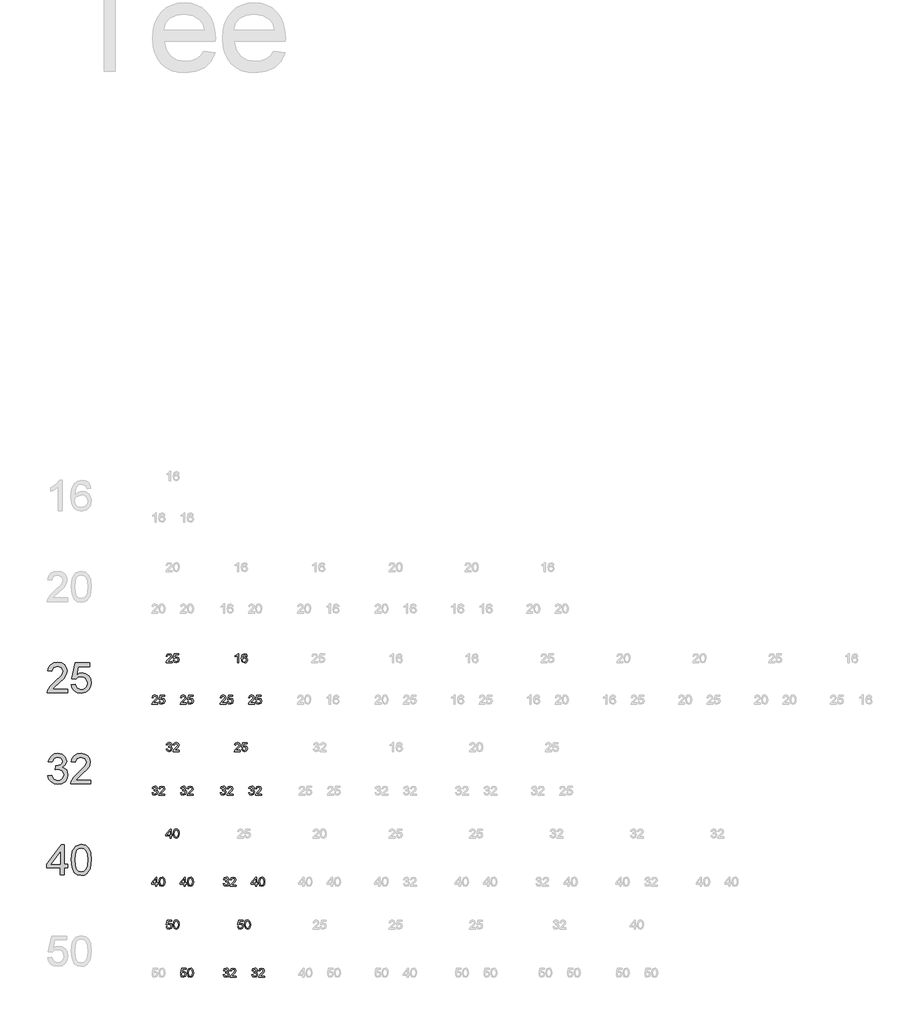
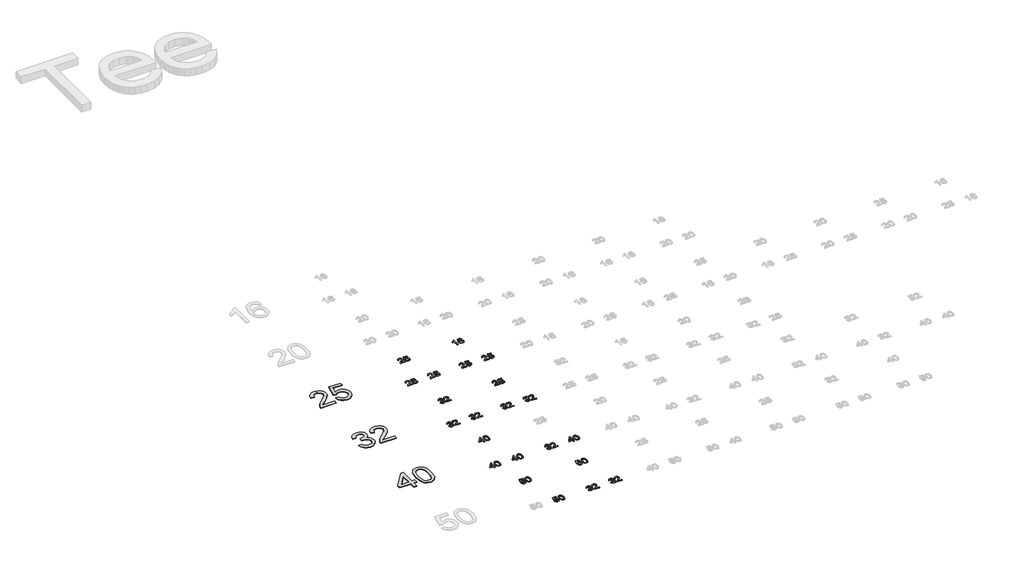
# One storey, part 16 of 26: 25 proxies.
"""IFC4 building model written with IfcOpenShell, lengths in millimetres."""

from ifc_helpers import new_model, si_unit, origin, origin_with_axes, place, context, project, spatial, polyline, outline, extrude, element, save

model = new_model("IFC4")

# Units and contexts
model_context = context("Model", 3, world=origin())
ifc_project = project(units=[si_unit("LENGTHUNIT", "METRE", prefix="MILLI")], contexts=[model_context])

# Site, building, storey
site = spatial("IfcSite", under=ifc_project)
building = spatial("IfcBuilding", under=site)
storey = spatial("IfcBuildingStorey", under=building, Name="Superpipe UFH", Elevation=0.0)

# Proxies
placement = place(None, origin())
element("IfcBuildingElementProxy", 1, Name="100mm Arial", ObjectType="100mm Arial", at=placement, inside=storey, context=model_context, shape_type="SweptSolid", body=[
    extrude(outline(polyline([(25235.3381363, 23738.2895031), (25235.3381363, 23725.7324643), (25169.4136828, 23725.7324643), (25170.7625834, 23734.3899539), (25178.3900035, 23747.7195449), (25194.1108274, 23762.2754092), (25215.7913396, 23783.195632), (25221.2114677, 23797.4204025), (25216.097908, 23808.9351089), (25202.7437915, 23813.6317357), (25188.8255894, 23809.0454735), (25183.5403514, 23796.3658074), (25170.9833126, 23797.9354372), (25174.0275361, 23810.0816745), (25180.6095582, 23818.9537619), (25190.3860222, 23824.3800213), (25203.0135717, 23826.1887745), (25215.7330917, 23824.1776862), (25225.4911616, 23818.1444215), (25231.6991702, 23809.1313126), (25233.7685065, 23798.1806919), (25231.536689, 23786.273578), (25224.1177355, 23773.9617939), (25206.1283059, 23756.7571793), (25191.6828062, 23744.6783871), (25186.0174235, 23738.2895031), (25235.3381363, 23738.2895031)])), origin_with_axes(), (0.0, 0.0, 1.0), 2.0),
    extrude(outline(polyline([(25247.8951751, 23752.4161717), (25260.4522139, 23753.9858016), (25266.7797842, 23741.0486181), (25279.9009087, 23736.7198733), (25288.9017548, 23738.2251237), (25295.6462581, 23742.7408752), (25299.8585069, 23749.7459616), (25301.2625899, 23758.7192166), (25296.0018773, 23773.6307001), (25289.3953298, 23777.7325843), (25280.0971124, 23779.0998791), (25269.0729153, 23776.9171126), (25262.0218437, 23771.2517299), (25249.4648049, 23772.8213597), (25260.4522139, 23824.6191446), (25309.1107391, 23824.6191446), (25309.1107391, 23812.0621059), (25270.6057569, 23812.0621059), (25265.2346798, 23784.3973798), (25274.2048691, 23789.8420334), (25283.6042541, 23791.6569179), (25295.336624, 23789.4067063), (25305.0762999, 23782.6560717), (25311.6337964, 23772.3676386), (25313.8196286, 23759.5040315), (25311.8514599, 23746.9469927), (25305.9469539, 23736.2048385), (25294.6407139, 23727.1733355), (25279.8518577, 23724.1628345), (25267.5186138, 23726.0972806), (25257.6930989, 23731.9006191), (25250.9577927, 23740.8983996), (25247.8951751, 23752.4161717)])), origin_with_axes(), (0.0, 0.0, 1.0), 2.0),
])
element("IfcBuildingElementProxy", 2, Name="100mm Arial", ObjectType="100mm Arial", at=placement, inside=storey, context=model_context, shape_type="SweptSolid", body=[
    extrude(outline(polyline([(25170.9833126, 23452.4161717), (25183.5403514, 23453.9858016), (25190.4687956, 23440.7665752), (25203.4305046, 23436.7198733), (25212.0389433, 23438.1116935), (25218.6853447, 23442.2871541), (25224.3507274, 23456.0704662), (25218.7343956, 23469.0567006), (25204.4605742, 23474.1947858), (25195.6559318, 23472.8213597), (25197.0538834, 23485.3783985), (25199.0649716, 23485.2312457), (25213.3142675, 23488.8364892), (25218.0599453, 23493.4104887), (25219.6418379, 23499.922), (25215.0555756, 23509.7444493), (25203.2343009, 23513.6317357), (25191.2658733, 23509.7076611), (25185.1099812, 23497.9354372), (25172.5529425, 23499.5050671), (25176.2501565, 23510.7806502), (25182.8291129, 23519.1990166), (25191.829959, 23524.441335), (25202.7928425, 23526.1887745), (25217.9373179, 23522.7429465), (25228.5323194, 23513.3251674), (25232.1988766, 23500.657764), (25228.7162604, 23489.0817439), (25218.4155645, 23480.7676108), (25232.1007748, 23472.1836976), (25236.9077662, 23455.849737), (25234.5042705, 23443.6115293), (25227.2937834, 23433.3844098), (25216.4106077, 23426.4682283), (25202.9890462, 23424.1628345), (25190.8489404, 23426.1310032), (25180.9651774, 23432.0355092), (25174.0919155, 23441.0670122), (25170.9833126, 23452.4161717)])), origin_with_axes(), (0.0, 0.0, 1.0), 2.0),
    extrude(outline(polyline([(25312.2499988, 23438.2895031), (25312.2499988, 23425.7324643), (25246.3255452, 23425.7324643), (25247.6744459, 23434.3899539), (25255.3018659, 23447.7195449), (25271.0226898, 23462.2754092), (25292.7032021, 23483.195632), (25298.1233302, 23497.4204025), (25293.0097704, 23508.9351089), (25279.655654, 23513.6317357), (25265.7374518, 23509.0454735), (25260.4522139, 23496.3658074), (25247.8951751, 23497.9354372), (25250.9393986, 23510.0816745), (25257.5214206, 23518.9537619), (25267.2978846, 23524.3800213), (25279.9254341, 23526.1887745), (25292.6449541, 23524.1776862), (25302.403024, 23518.1444215), (25308.6110327, 23509.1313126), (25310.6803689, 23498.1806919), (25308.4485515, 23486.273578), (25301.0295979, 23473.9617939), (25283.0401684, 23456.7571793), (25268.5946687, 23444.6783871), (25262.929286, 23438.2895031), (25312.2499988, 23438.2895031)])), origin_with_axes(), (0.0, 0.0, 1.0), 2.0),
])
element("IfcBuildingElementProxy", 3, Name="100mm Arial", ObjectType="100mm Arial", at=placement, inside=storey, context=model_context, shape_type="SweptSolid", body=[
    extrude(outline(polyline([(25211.7936886, 23125.7324643), (25211.7936886, 23149.276912), (25166.2744231, 23149.276912), (25166.2744231, 23161.8339508), (25214.9329483, 23224.6191446), (25224.3507274, 23224.6191446), (25224.3507274, 23161.8339508), (25236.9077662, 23161.8339508), (25236.9077662, 23149.276912), (25224.3507274, 23149.276912), (25224.3507274, 23125.7324643), (25211.7936886, 23125.7324643)]), holes=[polyline([(25211.7936886, 23161.8339508), (25211.7936886, 23200.6332385), (25181.7254669, 23161.8339508), (25211.7936886, 23161.8339508)])]), origin_with_axes(), (0.0, 0.0, 1.0), 2.0),
    extrude(outline(polyline([(25247.8951751, 23175.151279), (25251.5862578, 23204.0545411), (25262.5491412, 23220.7195955), (25280.8574019, 23226.1887745), (25295.5236307, 23222.9514129), (25305.6526483, 23213.619473), (25311.5387602, 23198.7570404), (25313.8196286, 23175.151279), (25310.1653341, 23146.3706443), (25299.2392389, 23129.6688017), (25291.0078792, 23125.5393263), (25280.8574019, 23124.1628345), (25267.8098538, 23126.5540675), (25257.9015654, 23133.7277664), (25250.3967727, 23150.7177832), (25247.8951751, 23175.151279)]), holes=[polyline([(25260.4522139, 23175.1758045), (25261.9237418, 23155.423607), (25266.3383258, 23143.991674), (25272.9111508, 23138.5378234), (25280.8574019, 23136.7198733), (25288.8036529, 23138.5439548), (25295.3764779, 23144.0161995), (25299.7910619, 23155.4542639), (25301.2625899, 23175.1758045), (25299.8401128, 23194.4834779), (25295.5726817, 23206.0043157), (25289.0121194, 23211.7248807), (25280.7102491, 23213.6317357), (25272.8498371, 23211.9517413), (25266.5345295, 23206.9117579), (25261.9727928, 23194.6735502), (25260.4522139, 23175.1758045)])]), origin_with_axes(), (0.0, 0.0, 1.0), 2.0),
])
element("IfcBuildingElementProxy", 4, Name="30mm Arial", ObjectType="30mm Arial", at=placement, inside=storey, context=model_context, shape_type="SweptSolid", body=[
    extrude(outline(polyline([(25533.2485753, 23692.297075), (25533.2485753, 23688.5299634), (25513.4712392, 23688.5299634), (25513.8759094, 23691.1272103), (25516.1641354, 23695.1260876), (25520.8803826, 23699.4928469), (25527.3845363, 23705.7689137), (25529.0105747, 23710.0363449), (25527.4765068, 23713.4907568), (25523.4702719, 23714.8997448), (25519.2948112, 23713.5238662), (25517.7092398, 23709.7199663), (25513.9421282, 23710.1908553), (25516.8300018, 23716.4963527), (25523.5512059, 23718.6668565), (25530.2944829, 23716.2535506), (25532.7776863, 23710.2644317), (25532.1081411, 23706.6922975), (25529.882455, 23702.9987623), (25524.4856262, 23697.8373779), (25520.1519763, 23694.2137402), (25518.4523614, 23692.297075), (25533.2485753, 23692.297075)])), origin_with_axes(), (0.0, 0.0, 1.0), 2.0),
    extrude(outline(polyline([(25537.0156869, 23696.5350756), (25540.7827986, 23697.0059646), (25542.6810696, 23693.1248095), (25546.617407, 23691.8261861), (25551.3410118, 23693.6324867), (25553.0259114, 23698.4259891), (25551.4476976, 23702.8994341), (25546.6762681, 23704.5401878), (25543.369009, 23703.8853579), (25541.2536875, 23702.1857431), (25537.4865759, 23702.656632), (25540.7827986, 23718.1959675), (25555.3803561, 23718.1959675), (25555.3803561, 23714.4288559), (25543.8288615, 23714.4288559), (25542.2175383, 23706.1294381), (25547.7284106, 23708.3072995), (25554.1700244, 23705.6070456), (25556.793023, 23698.6614336), (25554.4312206, 23691.6716757), (25546.6026917, 23688.0590745), (25539.9550641, 23690.3804098), (25537.0156869, 23696.5350756)])), origin_with_axes(), (0.0, 0.0, 1.0), 2.0),
])
element("IfcBuildingElementProxy", 5, Name="30mm Arial", ObjectType="30mm Arial", at=placement, inside=storey, context=model_context, shape_type="SweptSolid", body=[
    extrude(outline(polyline([(25626.9985753, 23692.297075), (25626.9985753, 23688.5299634), (25607.2212392, 23688.5299634), (25607.6259094, 23691.1272103), (25609.9141354, 23695.1260876), (25614.6303826, 23699.4928469), (25621.1345363, 23705.7689137), (25622.7605747, 23710.0363449), (25621.2265068, 23713.4907568), (25617.2202719, 23714.8997448), (25613.0448112, 23713.5238662), (25611.4592398, 23709.7199663), (25607.6921282, 23710.1908553), (25610.5800018, 23716.4963527), (25617.3012059, 23718.6668565), (25624.0444829, 23716.2535506), (25626.5276863, 23710.2644317), (25625.8581411, 23706.6922975), (25623.632455, 23702.9987623), (25618.2356262, 23697.8373779), (25613.9019763, 23694.2137402), (25612.2023614, 23692.297075), (25626.9985753, 23692.297075)])), origin_with_axes(), (0.0, 0.0, 1.0), 2.0),
    extrude(outline(polyline([(25630.7656869, 23696.5350756), (25634.5327986, 23697.0059646), (25636.4310696, 23693.1248095), (25640.367407, 23691.8261861), (25645.0910118, 23693.6324867), (25646.7759114, 23698.4259891), (25645.1976976, 23702.8994341), (25640.4262681, 23704.5401878), (25637.119009, 23703.8853579), (25635.0036875, 23702.1857431), (25631.2365759, 23702.656632), (25634.5327986, 23718.1959675), (25649.1303561, 23718.1959675), (25649.1303561, 23714.4288559), (25637.5788615, 23714.4288559), (25635.9675383, 23706.1294381), (25641.4784106, 23708.3072995), (25647.9200244, 23705.6070456), (25650.543023, 23698.6614336), (25648.1812206, 23691.6716757), (25640.3526917, 23688.0590745), (25633.7050641, 23690.3804098), (25630.7656869, 23696.5350756)])), origin_with_axes(), (0.0, 0.0, 1.0), 2.0),
])
element("IfcBuildingElementProxy", 6, Name="30mm Arial", ObjectType="30mm Arial", at=placement, inside=storey, context=model_context, shape_type="SweptSolid", body=[
    extrude(outline(polyline([(25580.1767601, 23828.6157156), (25580.1767601, 23824.848604), (25560.399424, 23824.848604), (25560.8040942, 23827.4458509), (25563.0923202, 23831.4447281), (25567.8085674, 23835.8114874), (25574.3127211, 23842.0875543), (25575.9387595, 23846.3549854), (25574.4046916, 23849.8093973), (25570.3984567, 23851.2183854), (25566.222996, 23849.8425067), (25564.6374246, 23846.0386069), (25560.870313, 23846.5094959), (25563.7581867, 23852.8149932), (25570.4793907, 23854.985497), (25577.2226677, 23852.5721911), (25579.7058711, 23846.5830723), (25579.0363259, 23843.0109381), (25576.8106398, 23839.3174028), (25571.413811, 23834.1560185), (25567.0801611, 23830.5323808), (25565.3805463, 23828.6157156), (25580.1767601, 23828.6157156)])), origin_with_axes(), (0.0, 0.0, 1.0), 2.0),
    extrude(outline(polyline([(25583.9438717, 23832.8537162), (25587.7109834, 23833.3246051), (25589.6092545, 23829.4434501), (25593.5455918, 23828.1448267), (25598.2691966, 23829.9511272), (25599.9540962, 23834.7446296), (25598.3758824, 23839.2180747), (25593.6044529, 23840.8588284), (25590.2971938, 23840.2039985), (25588.1818723, 23838.5043836), (25584.4147607, 23838.9752726), (25587.7109834, 23854.5146081), (25602.3085409, 23854.5146081), (25602.3085409, 23850.7474964), (25590.7570463, 23850.7474964), (25589.1457231, 23842.4480786), (25594.6565954, 23844.62594), (25601.0982092, 23841.9256862), (25603.7212078, 23834.9800741), (25601.3594054, 23827.9903162), (25593.5308765, 23824.377715), (25586.8832489, 23826.6990504), (25583.9438717, 23832.8537162)])), origin_with_axes(), (0.0, 0.0, 1.0), 2.0),
])
element("IfcBuildingElementProxy", 7, Name="30mm Arial", ObjectType="30mm Arial", at=placement, inside=storey, context=model_context, shape_type="SweptSolid", body=[
    extrude(outline(polyline([(25758.2485753, 23692.297075), (25758.2485753, 23688.5299634), (25738.4712392, 23688.5299634), (25738.8759094, 23691.1272103), (25741.1641354, 23695.1260876), (25745.8803826, 23699.4928469), (25752.3845363, 23705.7689137), (25754.0105747, 23710.0363449), (25752.4765068, 23713.4907568), (25748.4702719, 23714.8997448), (25744.2948112, 23713.5238662), (25742.7092398, 23709.7199663), (25738.9421282, 23710.1908553), (25741.8300018, 23716.4963527), (25748.5512059, 23718.6668565), (25755.2944829, 23716.2535506), (25757.7776863, 23710.2644317), (25757.1081411, 23706.6922975), (25754.882455, 23702.9987623), (25749.4856262, 23697.8373779), (25745.1519763, 23694.2137402), (25743.4523614, 23692.297075), (25758.2485753, 23692.297075)])), origin_with_axes(), (0.0, 0.0, 1.0), 2.0),
    extrude(outline(polyline([(25762.0156869, 23696.5350756), (25765.7827986, 23697.0059646), (25767.6810696, 23693.1248095), (25771.617407, 23691.8261861), (25776.3410118, 23693.6324867), (25778.0259114, 23698.4259891), (25776.4476976, 23702.8994341), (25771.6762681, 23704.5401878), (25768.369009, 23703.8853579), (25766.2536875, 23702.1857431), (25762.4865759, 23702.656632), (25765.7827986, 23718.1959675), (25780.3803561, 23718.1959675), (25780.3803561, 23714.4288559), (25768.8288615, 23714.4288559), (25767.2175383, 23706.1294381), (25772.7284106, 23708.3072995), (25779.1700244, 23705.6070456), (25781.793023, 23698.6614336), (25779.4312206, 23691.6716757), (25771.6026917, 23688.0590745), (25764.9550641, 23690.3804098), (25762.0156869, 23696.5350756)])), origin_with_axes(), (0.0, 0.0, 1.0), 2.0),
])
element("IfcBuildingElementProxy", 8, Name="30mm Arial", ObjectType="30mm Arial", at=placement, inside=storey, context=model_context, shape_type="SweptSolid", body=[
    extrude(outline(polyline([(25851.9985753, 23692.297075), (25851.9985753, 23688.5299634), (25832.2212392, 23688.5299634), (25832.6259094, 23691.1272103), (25834.9141354, 23695.1260876), (25839.6303826, 23699.4928469), (25846.1345363, 23705.7689137), (25847.7605747, 23710.0363449), (25846.2265068, 23713.4907568), (25842.2202719, 23714.8997448), (25838.0448112, 23713.5238662), (25836.4592398, 23709.7199663), (25832.6921282, 23710.1908553), (25835.5800018, 23716.4963527), (25842.3012059, 23718.6668565), (25849.0444829, 23716.2535506), (25851.5276863, 23710.2644317), (25850.8581411, 23706.6922975), (25848.632455, 23702.9987623), (25843.2356262, 23697.8373779), (25838.9019763, 23694.2137402), (25837.2023614, 23692.297075), (25851.9985753, 23692.297075)])), origin_with_axes(), (0.0, 0.0, 1.0), 2.0),
    extrude(outline(polyline([(25855.7656869, 23696.5350756), (25859.5327986, 23697.0059646), (25861.4310696, 23693.1248095), (25865.367407, 23691.8261861), (25870.0910118, 23693.6324867), (25871.7759114, 23698.4259891), (25870.1976976, 23702.8994341), (25865.4262681, 23704.5401878), (25862.119009, 23703.8853579), (25860.0036875, 23702.1857431), (25856.2365759, 23702.656632), (25859.5327986, 23718.1959675), (25874.1303561, 23718.1959675), (25874.1303561, 23714.4288559), (25862.5788615, 23714.4288559), (25860.9675383, 23706.1294381), (25866.4784106, 23708.3072995), (25872.9200244, 23705.6070456), (25875.543023, 23698.6614336), (25873.1812206, 23691.6716757), (25865.3526917, 23688.0590745), (25858.7050641, 23690.3804098), (25855.7656869, 23696.5350756)])), origin_with_axes(), (0.0, 0.0, 1.0), 2.0),
])
element("IfcBuildingElementProxy", 9, Name="30mm Arial", ObjectType="30mm Arial", at=placement, inside=storey, context=model_context, shape_type="SweptSolid", body=[
    extrude(outline(polyline([(25799.9969816, 23824.848604), (25796.22987, 23824.848604), (25796.22987, 23848.3341905), (25792.6614146, 23845.792126), (25788.6956467, 23843.890176), (25788.6956467, 23847.4512738), (25794.2175555, 23850.9755833), (25797.5689604, 23854.985497), (25799.9969816, 23854.985497), (25799.9969816, 23824.848604)])), origin_with_axes(), (0.0, 0.0, 1.0), 2.0),
    extrude(outline(polyline([(25828.2503188, 23846.9803848), (25824.4832072, 23846.5094959), (25823.0558251, 23849.6512081), (25819.2813558, 23851.2183854), (25815.8821262, 23850.306038), (25813.310631, 23846.8810567), (25812.2400944, 23840.1672103), (25815.5620688, 23843.1728062), (25819.6786683, 23844.1550511), (25826.0798151, 23841.4695125), (25828.7212078, 23834.5312581), (25827.4777666, 23829.3330855), (25824.0564641, 23825.6542655), (25819.1194877, 23824.377715), (25811.4417905, 23827.7622294), (25808.4729828, 23838.9164115), (25811.7692055, 23851.5494792), (25819.5168003, 23854.985497), (25825.469131, 23852.8591391), (25828.2503188, 23846.9803848)]), holes=[polyline([(25812.2400944, 23834.5901192), (25813.1119747, 23831.3270059), (25815.4296313, 23828.9578459), (25818.8251821, 23828.1448267), (25823.2655178, 23829.8297262), (25824.9540962, 23834.4061782), (25823.2875907, 23838.7876528), (25818.6706717, 23840.3879395), (25814.1126138, 23838.7876528), (25812.2400944, 23834.5901192)])]), origin_with_axes(), (0.0, 0.0, 1.0), 2.0),
])
element("IfcBuildingElementProxy", 10, Name="30mm Arial", ObjectType="30mm Arial", at=placement, inside=storey, context=model_context, shape_type="SweptSolid", body=[
    extrude(outline(polyline([(25513.9421282, 23396.5350756), (25517.7092398, 23397.0059646), (25519.7877731, 23393.0401967), (25523.6762858, 23391.8261861), (25528.2527378, 23393.4963703), (25529.9523526, 23397.631364), (25528.2674531, 23401.5272343), (25523.9853067, 23403.0686599), (25521.3439139, 23402.656632), (25521.7632994, 23406.4237437), (25526.6414147, 23407.4611709), (25528.5396858, 23410.7868241), (25527.1638071, 23413.7335589), (25523.6174247, 23414.8997448), (25520.0268964, 23413.7225224), (25518.1801288, 23410.1908553), (25514.4130171, 23410.6617442), (25517.4958683, 23416.5699291), (25523.4849871, 23418.6668565), (25528.0283298, 23417.6331081), (25531.2068302, 23414.8077743), (25532.3067974, 23411.0075533), (25531.2620125, 23407.5347473), (25528.1718038, 23405.0405074), (25532.2773668, 23402.4653334), (25533.7194642, 23397.5651452), (25530.8352694, 23390.8255471), (25523.5438483, 23388.0590745), (25516.9366876, 23390.4208769), (25513.9421282, 23396.5350756)])), origin_with_axes(), (0.0, 0.0, 1.0), 2.0),
    extrude(outline(polyline([(25556.322134, 23392.297075), (25556.322134, 23388.5299634), (25536.544798, 23388.5299634), (25536.9494682, 23391.1272103), (25539.2376942, 23395.1260876), (25543.9539414, 23399.4928469), (25550.458095, 23405.7689137), (25552.0841334, 23410.0363449), (25550.5500655, 23413.4907568), (25546.5438306, 23414.8997448), (25542.36837, 23413.5238662), (25540.7827986, 23409.7199663), (25537.0156869, 23410.1908553), (25539.9035606, 23416.4963527), (25546.6247646, 23418.6668565), (25553.3680416, 23416.2535506), (25555.8512451, 23410.2644317), (25555.1816998, 23406.6922975), (25552.9560138, 23402.9987623), (25547.5591849, 23397.8373779), (25543.225535, 23394.2137402), (25541.5259202, 23392.297075), (25556.322134, 23392.297075)])), origin_with_axes(), (0.0, 0.0, 1.0), 2.0),
])
element("IfcBuildingElementProxy", 11, Name="30mm Arial", ObjectType="30mm Arial", at=placement, inside=storey, context=model_context, shape_type="SweptSolid", body=[
    extrude(outline(polyline([(25607.6921282, 23396.5350756), (25611.4592398, 23397.0059646), (25613.5377731, 23393.0401967), (25617.4262858, 23391.8261861), (25622.0027378, 23393.4963703), (25623.7023526, 23397.631364), (25622.0174531, 23401.5272343), (25617.7353067, 23403.0686599), (25615.0939139, 23402.656632), (25615.5132994, 23406.4237437), (25620.3914147, 23407.4611709), (25622.2896858, 23410.7868241), (25620.9138071, 23413.7335589), (25617.3674247, 23414.8997448), (25613.7768964, 23413.7225224), (25611.9301288, 23410.1908553), (25608.1630171, 23410.6617442), (25611.2458683, 23416.5699291), (25617.2349871, 23418.6668565), (25621.7783298, 23417.6331081), (25624.9568302, 23414.8077743), (25626.0567974, 23411.0075533), (25625.0120125, 23407.5347473), (25621.9218038, 23405.0405074), (25626.0273668, 23402.4653334), (25627.4694642, 23397.5651452), (25624.5852694, 23390.8255471), (25617.2938483, 23388.0590745), (25610.6866876, 23390.4208769), (25607.6921282, 23396.5350756)])), origin_with_axes(), (0.0, 0.0, 1.0), 2.0),
    extrude(outline(polyline([(25650.072134, 23392.297075), (25650.072134, 23388.5299634), (25630.294798, 23388.5299634), (25630.6994682, 23391.1272103), (25632.9876942, 23395.1260876), (25637.7039414, 23399.4928469), (25644.208095, 23405.7689137), (25645.8341334, 23410.0363449), (25644.3000655, 23413.4907568), (25640.2938306, 23414.8997448), (25636.11837, 23413.5238662), (25634.5327986, 23409.7199663), (25630.7656869, 23410.1908553), (25633.6535606, 23416.4963527), (25640.3747646, 23418.6668565), (25647.1180416, 23416.2535506), (25649.6012451, 23410.2644317), (25648.9316998, 23406.6922975), (25646.7060138, 23402.9987623), (25641.3091849, 23397.8373779), (25636.975535, 23394.2137402), (25635.2759202, 23392.297075), (25650.072134, 23392.297075)])), origin_with_axes(), (0.0, 0.0, 1.0), 2.0),
])
element("IfcBuildingElementProxy", 12, Name="30mm Arial", ObjectType="30mm Arial", at=placement, inside=storey, context=model_context, shape_type="SweptSolid", body=[
    extrude(outline(polyline([(25560.870313, 23540.3537162), (25564.6374246, 23540.8246051), (25566.7159579, 23536.8588372), (25570.6044706, 23535.6448267), (25575.1809226, 23537.3150109), (25576.8805374, 23541.4500045), (25575.1956379, 23545.3458749), (25570.9134915, 23546.8873004), (25568.2720987, 23546.4752726), (25568.6914842, 23550.2423842), (25573.5695995, 23551.2798114), (25575.4678706, 23554.6054647), (25574.0919919, 23557.5521995), (25570.5456095, 23558.7183854), (25566.9550812, 23557.541163), (25565.1083136, 23554.0094959), (25561.3412019, 23554.4803848), (25564.4240531, 23560.3885696), (25570.4131719, 23562.485497), (25574.9565146, 23561.4517486), (25578.135015, 23558.6264149), (25579.2349822, 23554.8261939), (25578.1901973, 23551.3533878), (25575.0999886, 23548.8591479), (25579.2055516, 23546.283974), (25580.6476491, 23541.3837858), (25577.7634542, 23534.6441876), (25570.4720331, 23531.877715), (25563.8648724, 23534.2395174), (25560.870313, 23540.3537162)])), origin_with_axes(), (0.0, 0.0, 1.0), 2.0),
    extrude(outline(polyline([(25603.2503188, 23536.1157156), (25603.2503188, 23532.348604), (25583.4729828, 23532.348604), (25583.877653, 23534.9458509), (25586.165879, 23538.9447281), (25590.8821262, 23543.3114874), (25597.3862798, 23549.5875543), (25599.0123183, 23553.8549854), (25597.4782503, 23557.3093973), (25593.4720154, 23558.7183854), (25589.2965548, 23557.3425067), (25587.7109834, 23553.5386069), (25583.9438717, 23554.0094959), (25586.8317454, 23560.3149932), (25593.5529494, 23562.485497), (25600.2962264, 23560.0721911), (25602.7794299, 23554.0830723), (25602.1098846, 23550.5109381), (25599.8841986, 23546.8174028), (25594.4873697, 23541.6560185), (25590.1537198, 23538.0323808), (25588.454105, 23536.1157156), (25603.2503188, 23536.1157156)])), origin_with_axes(), (0.0, 0.0, 1.0), 2.0),
])
element("IfcBuildingElementProxy", 13, Name="30mm Arial", ObjectType="30mm Arial", at=placement, inside=storey, context=model_context, shape_type="SweptSolid", body=[
    extrude(outline(polyline([(25738.9421282, 23396.5350756), (25742.7092398, 23397.0059646), (25744.7877731, 23393.0401967), (25748.6762858, 23391.8261861), (25753.2527378, 23393.4963703), (25754.9523526, 23397.631364), (25753.2674531, 23401.5272343), (25748.9853067, 23403.0686599), (25746.3439139, 23402.656632), (25746.7632994, 23406.4237437), (25751.6414147, 23407.4611709), (25753.5396858, 23410.7868241), (25752.1638071, 23413.7335589), (25748.6174247, 23414.8997448), (25745.0268964, 23413.7225224), (25743.1801288, 23410.1908553), (25739.4130171, 23410.6617442), (25742.4958683, 23416.5699291), (25748.4849871, 23418.6668565), (25753.0283298, 23417.6331081), (25756.2068302, 23414.8077743), (25757.3067974, 23411.0075533), (25756.2620125, 23407.5347473), (25753.1718038, 23405.0405074), (25757.2773668, 23402.4653334), (25758.7194642, 23397.5651452), (25755.8352694, 23390.8255471), (25748.5438483, 23388.0590745), (25741.9366876, 23390.4208769), (25738.9421282, 23396.5350756)])), origin_with_axes(), (0.0, 0.0, 1.0), 2.0),
    extrude(outline(polyline([(25781.322134, 23392.297075), (25781.322134, 23388.5299634), (25761.544798, 23388.5299634), (25761.9494682, 23391.1272103), (25764.2376942, 23395.1260876), (25768.9539414, 23399.4928469), (25775.458095, 23405.7689137), (25777.0841334, 23410.0363449), (25775.5500655, 23413.4907568), (25771.5438306, 23414.8997448), (25767.36837, 23413.5238662), (25765.7827986, 23409.7199663), (25762.0156869, 23410.1908553), (25764.9035606, 23416.4963527), (25771.6247646, 23418.6668565), (25778.3680416, 23416.2535506), (25780.8512451, 23410.2644317), (25780.1816998, 23406.6922975), (25777.9560138, 23402.9987623), (25772.5591849, 23397.8373779), (25768.225535, 23394.2137402), (25766.5259202, 23392.297075), (25781.322134, 23392.297075)])), origin_with_axes(), (0.0, 0.0, 1.0), 2.0),
])
element("IfcBuildingElementProxy", 14, Name="30mm Arial", ObjectType="30mm Arial", at=placement, inside=storey, context=model_context, shape_type="SweptSolid", body=[
    extrude(outline(polyline([(25832.6921282, 23396.5350756), (25836.4592398, 23397.0059646), (25838.5377731, 23393.0401967), (25842.4262858, 23391.8261861), (25847.0027378, 23393.4963703), (25848.7023526, 23397.631364), (25847.0174531, 23401.5272343), (25842.7353067, 23403.0686599), (25840.0939139, 23402.656632), (25840.5132994, 23406.4237437), (25845.3914147, 23407.4611709), (25847.2896858, 23410.7868241), (25845.9138071, 23413.7335589), (25842.3674247, 23414.8997448), (25838.7768964, 23413.7225224), (25836.9301288, 23410.1908553), (25833.1630171, 23410.6617442), (25836.2458683, 23416.5699291), (25842.2349871, 23418.6668565), (25846.7783298, 23417.6331081), (25849.9568302, 23414.8077743), (25851.0567974, 23411.0075533), (25850.0120125, 23407.5347473), (25846.9218038, 23405.0405074), (25851.0273668, 23402.4653334), (25852.4694642, 23397.5651452), (25849.5852694, 23390.8255471), (25842.2938483, 23388.0590745), (25835.6866876, 23390.4208769), (25832.6921282, 23396.5350756)])), origin_with_axes(), (0.0, 0.0, 1.0), 2.0),
    extrude(outline(polyline([(25875.072134, 23392.297075), (25875.072134, 23388.5299634), (25855.294798, 23388.5299634), (25855.6994682, 23391.1272103), (25857.9876942, 23395.1260876), (25862.7039414, 23399.4928469), (25869.208095, 23405.7689137), (25870.8341334, 23410.0363449), (25869.3000655, 23413.4907568), (25865.2938306, 23414.8997448), (25861.11837, 23413.5238662), (25859.5327986, 23409.7199663), (25855.7656869, 23410.1908553), (25858.6535606, 23416.4963527), (25865.3747646, 23418.6668565), (25872.1180416, 23416.2535506), (25874.6012451, 23410.2644317), (25873.9316998, 23406.6922975), (25871.7060138, 23402.9987623), (25866.3091849, 23397.8373779), (25861.975535, 23394.2137402), (25860.2759202, 23392.297075), (25875.072134, 23392.297075)])), origin_with_axes(), (0.0, 0.0, 1.0), 2.0),
])
element("IfcBuildingElementProxy", 15, Name="30mm Arial", ObjectType="30mm Arial", at=placement, inside=storey, context=model_context, shape_type="SweptSolid", body=[
    extrude(outline(polyline([(25805.1767601, 23536.1157156), (25805.1767601, 23532.348604), (25785.399424, 23532.348604), (25785.8040942, 23534.9458509), (25788.0923202, 23538.9447281), (25792.8085674, 23543.3114874), (25799.3127211, 23549.5875543), (25800.9387595, 23553.8549854), (25799.4046916, 23557.3093973), (25795.3984567, 23558.7183854), (25791.222996, 23557.3425067), (25789.6374246, 23553.5386069), (25785.870313, 23554.0094959), (25788.7581867, 23560.3149932), (25795.4793907, 23562.485497), (25802.2226677, 23560.0721911), (25804.7058711, 23554.0830723), (25804.0363259, 23550.5109381), (25801.8106398, 23546.8174028), (25796.413811, 23541.6560185), (25792.0801611, 23538.0323808), (25790.3805463, 23536.1157156), (25805.1767601, 23536.1157156)])), origin_with_axes(), (0.0, 0.0, 1.0), 2.0),
    extrude(outline(polyline([(25808.9438717, 23540.3537162), (25812.7109834, 23540.8246051), (25814.6092545, 23536.9434501), (25818.5455918, 23535.6448267), (25823.2691966, 23537.4511272), (25824.9540962, 23542.2446296), (25823.3758824, 23546.7180747), (25818.6044529, 23548.3588284), (25815.2971938, 23547.7039985), (25813.1818723, 23546.0043836), (25809.4147607, 23546.4752726), (25812.7109834, 23562.0146081), (25827.3085409, 23562.0146081), (25827.3085409, 23558.2474964), (25815.7570463, 23558.2474964), (25814.1457231, 23549.9480786), (25819.6565954, 23552.12594), (25826.0982092, 23549.4256862), (25828.7212078, 23542.4800741), (25826.3594054, 23535.4903162), (25818.5308765, 23531.877715), (25811.8832489, 23534.1990504), (25808.9438717, 23540.3537162)])), origin_with_axes(), (0.0, 0.0, 1.0), 2.0),
])
element("IfcBuildingElementProxy", 16, Name="30mm Arial", ObjectType="30mm Arial", at=placement, inside=storey, context=model_context, shape_type="SweptSolid", body=[
    extrude(outline(polyline([(25526.185241, 23088.5299634), (25526.185241, 23095.5932977), (25512.5294613, 23095.5932977), (25512.5294613, 23099.3604094), (25527.1270189, 23118.1959675), (25529.9523526, 23118.1959675), (25529.9523526, 23099.3604094), (25533.7194642, 23099.3604094), (25533.7194642, 23095.5932977), (25529.9523526, 23095.5932977), (25529.9523526, 23088.5299634), (25526.185241, 23088.5299634)]), holes=[polyline([(25526.185241, 23099.3604094), (25526.185241, 23111.0001957), (25517.1647745, 23099.3604094), (25526.185241, 23099.3604094)])]), origin_with_axes(), (0.0, 0.0, 1.0), 2.0),
    extrude(outline(polyline([(25537.0156869, 23103.3556078), (25538.1230117, 23112.0265864), (25541.4118768, 23117.0261028), (25546.904355, 23118.6668565), (25551.3042236, 23117.695648), (25554.3429289, 23114.896066), (25556.1087625, 23110.4373362), (25556.793023, 23103.3556078), (25555.6967346, 23094.7214174), (25552.4189061, 23089.7108646), (25546.904355, 23088.0590745), (25540.017604, 23090.928554), (25537.0156869, 23103.3556078)]), holes=[polyline([(25540.7827986, 23103.3629655), (25542.5486321, 23094.0077263), (25546.904355, 23091.8261861), (25551.2600778, 23094.015084), (25553.0259114, 23103.3629655), (25551.3189389, 23112.6115188), (25546.8602091, 23114.8997448), (25542.6074932, 23112.8837515), (25540.7827986, 23103.3629655)])]), origin_with_axes(), (0.0, 0.0, 1.0), 2.0),
])
element("IfcBuildingElementProxy", 17, Name="30mm Arial", ObjectType="30mm Arial", at=placement, inside=storey, context=model_context, shape_type="SweptSolid", body=[
    extrude(outline(polyline([(25619.935241, 23088.5299634), (25619.935241, 23095.5932977), (25606.2794613, 23095.5932977), (25606.2794613, 23099.3604094), (25620.8770189, 23118.1959675), (25623.7023526, 23118.1959675), (25623.7023526, 23099.3604094), (25627.4694642, 23099.3604094), (25627.4694642, 23095.5932977), (25623.7023526, 23095.5932977), (25623.7023526, 23088.5299634), (25619.935241, 23088.5299634)]), holes=[polyline([(25619.935241, 23099.3604094), (25619.935241, 23111.0001957), (25610.9147745, 23099.3604094), (25619.935241, 23099.3604094)])]), origin_with_axes(), (0.0, 0.0, 1.0), 2.0),
    extrude(outline(polyline([(25630.7656869, 23103.3556078), (25631.8730117, 23112.0265864), (25635.1618768, 23117.0261028), (25640.654355, 23118.6668565), (25645.0542236, 23117.695648), (25648.0929289, 23114.896066), (25649.8587625, 23110.4373362), (25650.543023, 23103.3556078), (25649.4467346, 23094.7214174), (25646.1689061, 23089.7108646), (25640.654355, 23088.0590745), (25633.767604, 23090.928554), (25630.7656869, 23103.3556078)]), holes=[polyline([(25634.5327986, 23103.3629655), (25636.2986321, 23094.0077263), (25640.654355, 23091.8261861), (25645.0100778, 23094.015084), (25646.7759114, 23103.3629655), (25645.0689389, 23112.6115188), (25640.6102091, 23114.8997448), (25636.3574932, 23112.8837515), (25634.5327986, 23103.3629655)])]), origin_with_axes(), (0.0, 0.0, 1.0), 2.0),
])
element("IfcBuildingElementProxy", 18, Name="30mm Arial", ObjectType="30mm Arial", at=placement, inside=storey, context=model_context, shape_type="SweptSolid", body=[
    extrude(outline(polyline([(25573.1134258, 23247.348604), (25573.1134258, 23254.4119383), (25559.4576461, 23254.4119383), (25559.4576461, 23258.1790499), (25574.0552037, 23277.0146081), (25576.8805374, 23277.0146081), (25576.8805374, 23258.1790499), (25580.6476491, 23258.1790499), (25580.6476491, 23254.4119383), (25576.8805374, 23254.4119383), (25576.8805374, 23247.348604), (25573.1134258, 23247.348604)]), holes=[polyline([(25573.1134258, 23258.1790499), (25573.1134258, 23269.8188362), (25564.0929593, 23258.1790499), (25573.1134258, 23258.1790499)])]), origin_with_axes(), (0.0, 0.0, 1.0), 2.0),
    extrude(outline(polyline([(25583.9438717, 23262.1742484), (25585.0511965, 23270.845227), (25588.3400616, 23275.8447433), (25593.8325398, 23277.485497), (25598.2324084, 23276.5142886), (25601.2711137, 23273.7147066), (25603.0369473, 23269.2559768), (25603.7212078, 23262.1742484), (25602.6249194, 23253.540058), (25599.3470909, 23248.5295052), (25593.8325398, 23246.877715), (25586.9457888, 23249.7471946), (25583.9438717, 23262.1742484)]), holes=[polyline([(25587.7109834, 23262.181606), (25589.4768169, 23252.8263669), (25593.8325398, 23250.6448267), (25598.1882626, 23252.8337245), (25599.9540962, 23262.181606), (25598.2471237, 23271.4301594), (25593.7883939, 23273.7183854), (25589.5356781, 23271.7023921), (25587.7109834, 23262.181606)])]), origin_with_axes(), (0.0, 0.0, 1.0), 2.0),
])
element("IfcBuildingElementProxy", 19, Name="30mm Arial", ObjectType="30mm Arial", at=placement, inside=storey, context=model_context, shape_type="SweptSolid", body=[
    extrude(outline(polyline([(25748.9421282, 23096.5350756), (25752.7092398, 23097.0059646), (25754.7877731, 23093.0401967), (25758.6762858, 23091.8261861), (25763.2527378, 23093.4963703), (25764.9523526, 23097.631364), (25763.2674531, 23101.5272343), (25758.9853067, 23103.0686599), (25756.3439139, 23102.656632), (25756.7632994, 23106.4237437), (25761.6414147, 23107.4611709), (25763.5396858, 23110.7868241), (25762.1638071, 23113.7335589), (25758.6174247, 23114.8997448), (25755.0268964, 23113.7225224), (25753.1801288, 23110.1908553), (25749.4130171, 23110.6617442), (25752.4958683, 23116.5699291), (25758.4849871, 23118.6668565), (25763.0283298, 23117.6331081), (25766.2068302, 23114.8077743), (25767.3067974, 23111.0075533), (25766.2620125, 23107.5347473), (25763.1718038, 23105.0405074), (25767.2773668, 23102.4653334), (25768.7194642, 23097.5651452), (25765.8352694, 23090.8255471), (25758.5438483, 23088.0590745), (25751.9366876, 23090.4208769), (25748.9421282, 23096.5350756)])), origin_with_axes(), (0.0, 0.0, 1.0), 2.0),
    extrude(outline(polyline([(25791.322134, 23092.297075), (25791.322134, 23088.5299634), (25771.544798, 23088.5299634), (25771.9494682, 23091.1272103), (25774.2376942, 23095.1260876), (25778.9539414, 23099.4928469), (25785.458095, 23105.7689137), (25787.0841334, 23110.0363449), (25785.5500655, 23113.4907568), (25781.5438306, 23114.8997448), (25777.36837, 23113.5238662), (25775.7827986, 23109.7199663), (25772.0156869, 23110.1908553), (25774.9035606, 23116.4963527), (25781.6247646, 23118.6668565), (25788.3680416, 23116.2535506), (25790.8512451, 23110.2644317), (25790.1816998, 23106.6922975), (25787.9560138, 23102.9987623), (25782.5591849, 23097.8373779), (25778.225535, 23094.2137402), (25776.5259202, 23092.297075), (25791.322134, 23092.297075)])), origin_with_axes(), (0.0, 0.0, 1.0), 2.0),
])
element("IfcBuildingElementProxy", 20, Name="30mm Arial", ObjectType="30mm Arial", at=placement, inside=storey, context=model_context, shape_type="SweptSolid", body=[
    extrude(outline(polyline([(25854.935241, 23088.5299634), (25854.935241, 23095.5932977), (25841.2794613, 23095.5932977), (25841.2794613, 23099.3604094), (25855.8770189, 23118.1959675), (25858.7023526, 23118.1959675), (25858.7023526, 23099.3604094), (25862.4694642, 23099.3604094), (25862.4694642, 23095.5932977), (25858.7023526, 23095.5932977), (25858.7023526, 23088.5299634), (25854.935241, 23088.5299634)]), holes=[polyline([(25854.935241, 23099.3604094), (25854.935241, 23111.0001957), (25845.9147745, 23099.3604094), (25854.935241, 23099.3604094)])]), origin_with_axes(), (0.0, 0.0, 1.0), 2.0),
    extrude(outline(polyline([(25865.7656869, 23103.3556078), (25866.8730117, 23112.0265864), (25870.1618768, 23117.0261028), (25875.654355, 23118.6668565), (25880.0542236, 23117.695648), (25883.0929289, 23114.896066), (25884.8587625, 23110.4373362), (25885.543023, 23103.3556078), (25884.4467346, 23094.7214174), (25881.1689061, 23089.7108646), (25875.654355, 23088.0590745), (25868.767604, 23090.928554), (25865.7656869, 23103.3556078)]), holes=[polyline([(25869.5327986, 23103.3629655), (25871.2986321, 23094.0077263), (25875.654355, 23091.8261861), (25880.0100778, 23094.015084), (25881.7759114, 23103.3629655), (25880.0689389, 23112.6115188), (25875.6102091, 23114.8997448), (25871.3574932, 23112.8837515), (25869.5327986, 23103.3629655)])]), origin_with_axes(), (0.0, 0.0, 1.0), 2.0),
])
element("IfcBuildingElementProxy", 21, Name="30mm Arial", ObjectType="30mm Arial", at=placement, inside=storey, context=model_context, shape_type="SweptSolid", body=[
    extrude(outline(polyline([(25607.6921282, 22796.5350756), (25611.4592398, 22797.0059646), (25613.3575109, 22793.1248095), (25617.2938483, 22791.8261861), (25622.0174531, 22793.6324867), (25623.7023526, 22798.4259891), (25622.1241389, 22802.8994341), (25617.3527094, 22804.5401878), (25614.0454502, 22803.8853579), (25611.9301288, 22802.1857431), (25608.1630171, 22802.656632), (25611.4592398, 22818.1959675), (25626.0567974, 22818.1959675), (25626.0567974, 22814.4288559), (25614.5053027, 22814.4288559), (25612.8939796, 22806.1294381), (25618.4048519, 22808.3072995), (25624.8464656, 22805.6070456), (25627.4694642, 22798.6614336), (25625.1076618, 22791.6716757), (25617.279133, 22788.0590745), (25610.6315053, 22790.3804098), (25607.6921282, 22796.5350756)])), origin_with_axes(), (0.0, 0.0, 1.0), 2.0),
    extrude(outline(polyline([(25630.7656869, 22803.3556078), (25631.8730117, 22812.0265864), (25635.1618768, 22817.0261028), (25640.654355, 22818.6668565), (25645.0542236, 22817.695648), (25648.0929289, 22814.896066), (25649.8587625, 22810.4373362), (25650.543023, 22803.3556078), (25649.4467346, 22794.7214174), (25646.1689061, 22789.7108646), (25640.654355, 22788.0590745), (25633.767604, 22790.928554), (25630.7656869, 22803.3556078)]), holes=[polyline([(25634.5327986, 22803.3629655), (25636.2986321, 22794.0077263), (25640.654355, 22791.8261861), (25645.0100778, 22794.015084), (25646.7759114, 22803.3629655), (25645.0689389, 22812.6115188), (25640.6102091, 22814.8997448), (25636.3574932, 22812.8837515), (25634.5327986, 22803.3629655)])]), origin_with_axes(), (0.0, 0.0, 1.0), 2.0),
])
element("IfcBuildingElementProxy", 22, Name="30mm Arial", ObjectType="30mm Arial", at=placement, inside=storey, context=model_context, shape_type="SweptSolid", body=[
    extrude(outline(polyline([(25560.870313, 22955.3537162), (25564.6374246, 22955.8246051), (25566.5356957, 22951.9434501), (25570.4720331, 22950.6448267), (25575.1956379, 22952.4511272), (25576.8805374, 22957.2446296), (25575.3023237, 22961.7180747), (25570.5308942, 22963.3588284), (25567.223635, 22962.7039985), (25565.1083136, 22961.0043836), (25561.3412019, 22961.4752726), (25564.6374246, 22977.0146081), (25579.2349822, 22977.0146081), (25579.2349822, 22973.2474964), (25567.6834875, 22973.2474964), (25566.0721644, 22964.9480786), (25571.5830367, 22967.12594), (25578.0246504, 22964.4256862), (25580.6476491, 22957.4800741), (25578.2858466, 22950.4903162), (25570.4573178, 22946.877715), (25563.8096901, 22949.1990504), (25560.870313, 22955.3537162)])), origin_with_axes(), (0.0, 0.0, 1.0), 2.0),
    extrude(outline(polyline([(25583.9438717, 22962.1742484), (25585.0511965, 22970.845227), (25588.3400616, 22975.8447433), (25593.8325398, 22977.485497), (25598.2324084, 22976.5142886), (25601.2711137, 22973.7147066), (25603.0369473, 22969.2559768), (25603.7212078, 22962.1742484), (25602.6249194, 22953.540058), (25599.3470909, 22948.5295052), (25593.8325398, 22946.877715), (25586.9457888, 22949.7471946), (25583.9438717, 22962.1742484)]), holes=[polyline([(25587.7109834, 22962.181606), (25589.4768169, 22952.8263669), (25593.8325398, 22950.6448267), (25598.1882626, 22952.8337245), (25599.9540962, 22962.181606), (25598.2471237, 22971.4301594), (25593.7883939, 22973.7183854), (25589.5356781, 22971.7023921), (25587.7109834, 22962.181606)])]), origin_with_axes(), (0.0, 0.0, 1.0), 2.0),
])
element("IfcBuildingElementProxy", 23, Name="30mm Arial", ObjectType="30mm Arial", at=placement, inside=storey, context=model_context, shape_type="SweptSolid", body=[
    extrude(outline(polyline([(25748.9421282, 22796.5350756), (25752.7092398, 22797.0059646), (25754.7877731, 22793.0401967), (25758.6762858, 22791.8261861), (25763.2527378, 22793.4963703), (25764.9523526, 22797.631364), (25763.2674531, 22801.5272343), (25758.9853067, 22803.0686599), (25756.3439139, 22802.656632), (25756.7632994, 22806.4237437), (25761.6414147, 22807.4611709), (25763.5396858, 22810.7868241), (25762.1638071, 22813.7335589), (25758.6174247, 22814.8997448), (25755.0268964, 22813.7225224), (25753.1801288, 22810.1908553), (25749.4130171, 22810.6617442), (25752.4958683, 22816.5699291), (25758.4849871, 22818.6668565), (25763.0283298, 22817.6331081), (25766.2068302, 22814.8077743), (25767.3067974, 22811.0075533), (25766.2620125, 22807.5347473), (25763.1718038, 22805.0405074), (25767.2773668, 22802.4653334), (25768.7194642, 22797.5651452), (25765.8352694, 22790.8255471), (25758.5438483, 22788.0590745), (25751.9366876, 22790.4208769), (25748.9421282, 22796.5350756)])), origin_with_axes(), (0.0, 0.0, 1.0), 2.0),
    extrude(outline(polyline([(25791.322134, 22792.297075), (25791.322134, 22788.5299634), (25771.544798, 22788.5299634), (25771.9494682, 22791.1272103), (25774.2376942, 22795.1260876), (25778.9539414, 22799.4928469), (25785.458095, 22805.7689137), (25787.0841334, 22810.0363449), (25785.5500655, 22813.4907568), (25781.5438306, 22814.8997448), (25777.36837, 22813.5238662), (25775.7827986, 22809.7199663), (25772.0156869, 22810.1908553), (25774.9035606, 22816.4963527), (25781.6247646, 22818.6668565), (25788.3680416, 22816.2535506), (25790.8512451, 22810.2644317), (25790.1816998, 22806.6922975), (25787.9560138, 22802.9987623), (25782.5591849, 22797.8373779), (25778.225535, 22794.2137402), (25776.5259202, 22792.297075), (25791.322134, 22792.297075)])), origin_with_axes(), (0.0, 0.0, 1.0), 2.0),
])
element("IfcBuildingElementProxy", 24, Name="30mm Arial", ObjectType="30mm Arial", at=placement, inside=storey, context=model_context, shape_type="SweptSolid", body=[
    extrude(outline(polyline([(25842.6921282, 22796.5350756), (25846.4592398, 22797.0059646), (25848.5377731, 22793.0401967), (25852.4262858, 22791.8261861), (25857.0027378, 22793.4963703), (25858.7023526, 22797.631364), (25857.0174531, 22801.5272343), (25852.7353067, 22803.0686599), (25850.0939139, 22802.656632), (25850.5132994, 22806.4237437), (25855.3914147, 22807.4611709), (25857.2896858, 22810.7868241), (25855.9138071, 22813.7335589), (25852.3674247, 22814.8997448), (25848.7768964, 22813.7225224), (25846.9301288, 22810.1908553), (25843.1630171, 22810.6617442), (25846.2458683, 22816.5699291), (25852.2349871, 22818.6668565), (25856.7783298, 22817.6331081), (25859.9568302, 22814.8077743), (25861.0567974, 22811.0075533), (25860.0120125, 22807.5347473), (25856.9218038, 22805.0405074), (25861.0273668, 22802.4653334), (25862.4694642, 22797.5651452), (25859.5852694, 22790.8255471), (25852.2938483, 22788.0590745), (25845.6866876, 22790.4208769), (25842.6921282, 22796.5350756)])), origin_with_axes(), (0.0, 0.0, 1.0), 2.0),
    extrude(outline(polyline([(25885.072134, 22792.297075), (25885.072134, 22788.5299634), (25865.294798, 22788.5299634), (25865.6994682, 22791.1272103), (25867.9876942, 22795.1260876), (25872.7039414, 22799.4928469), (25879.208095, 22805.7689137), (25880.8341334, 22810.0363449), (25879.3000655, 22813.4907568), (25875.2938306, 22814.8997448), (25871.11837, 22813.5238662), (25869.5327986, 22809.7199663), (25865.7656869, 22810.1908553), (25868.6535606, 22816.4963527), (25875.3747646, 22818.6668565), (25882.1180416, 22816.2535506), (25884.6012451, 22810.2644317), (25883.9316998, 22806.6922975), (25881.7060138, 22802.9987623), (25876.3091849, 22797.8373779), (25871.975535, 22794.2137402), (25870.2759202, 22792.297075), (25885.072134, 22792.297075)])), origin_with_axes(), (0.0, 0.0, 1.0), 2.0),
])
element("IfcBuildingElementProxy", 25, Name="30mm Arial", ObjectType="30mm Arial", at=placement, inside=storey, context=model_context, shape_type="SweptSolid", body=[
    extrude(outline(polyline([(25795.870313, 22955.3537162), (25799.6374246, 22955.8246051), (25801.5356957, 22951.9434501), (25805.4720331, 22950.6448267), (25810.1956379, 22952.4511272), (25811.8805374, 22957.2446296), (25810.3023237, 22961.7180747), (25805.5308942, 22963.3588284), (25802.223635, 22962.7039985), (25800.1083136, 22961.0043836), (25796.3412019, 22961.4752726), (25799.6374246, 22977.0146081), (25814.2349822, 22977.0146081), (25814.2349822, 22973.2474964), (25802.6834875, 22973.2474964), (25801.0721644, 22964.9480786), (25806.5830367, 22967.12594), (25813.0246504, 22964.4256862), (25815.6476491, 22957.4800741), (25813.2858466, 22950.4903162), (25805.4573178, 22946.877715), (25798.8096901, 22949.1990504), (25795.870313, 22955.3537162)])), origin_with_axes(), (0.0, 0.0, 1.0), 2.0),
    extrude(outline(polyline([(25818.9438717, 22962.1742484), (25820.0511965, 22970.845227), (25823.3400616, 22975.8447433), (25828.8325398, 22977.485497), (25833.2324084, 22976.5142886), (25836.2711137, 22973.7147066), (25838.0369473, 22969.2559768), (25838.7212078, 22962.1742484), (25837.6249194, 22953.540058), (25834.3470909, 22948.5295052), (25828.8325398, 22946.877715), (25821.9457888, 22949.7471946), (25818.9438717, 22962.1742484)]), holes=[polyline([(25822.7109834, 22962.181606), (25824.4768169, 22952.8263669), (25828.8325398, 22950.6448267), (25833.1882626, 22952.8337245), (25834.9540962, 22962.181606), (25833.2471237, 22971.4301594), (25828.7883939, 22973.7183854), (25824.5356781, 22971.7023921), (25822.7109834, 22962.181606)])]), origin_with_axes(), (0.0, 0.0, 1.0), 2.0),
])

save(model, "model.ifc")
